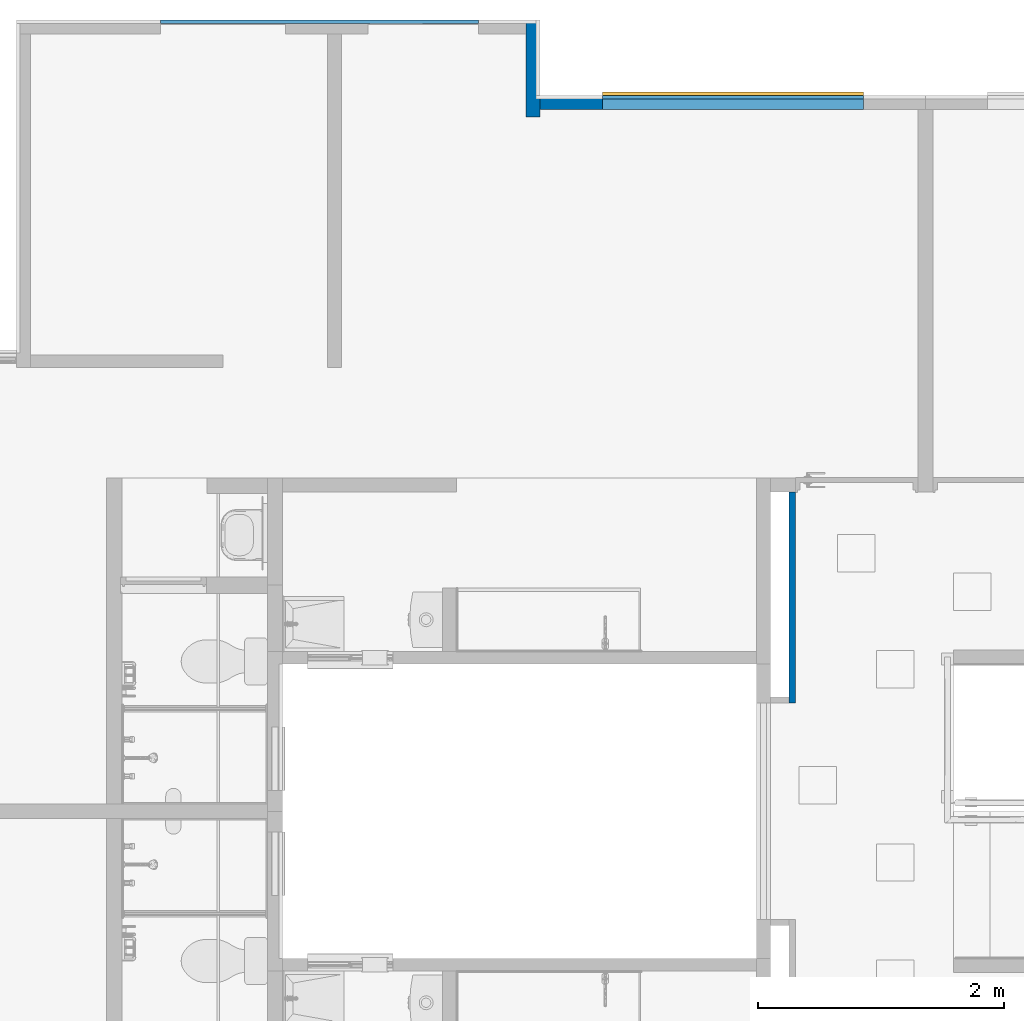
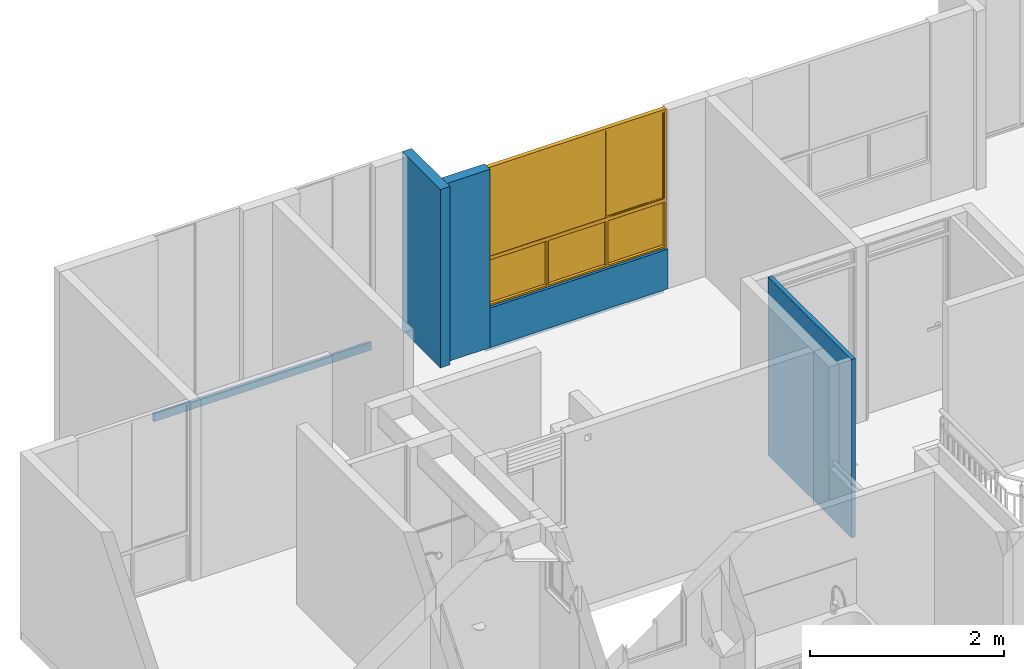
# One storey, part 19 of 47: 6 walls, 1 window, 1 opening.
"""IFC4 building model written with IfcOpenShell, lengths in metres."""

from ifc_helpers import new_model, entity, si_unit, converted_unit, derived_unit, direction, frame, origin, place, context, subcontext, project, spatial, indexed_curve, outline, extrude, polygons, source, transform, mapped, material, constituent, constituent_set, type_object, type_shapes, element, fill, save


model = new_model("IFC4")

# Units and contexts
model_context = context("Model", 3, precision=1e-05, world=origin(), true_north=direction((6.123031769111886e-17, 1.0)))
body_context = subcontext(model_context, "Body", "Model", "MODEL_VIEW")
ifc_project = project(units=[si_unit("LENGTHUNIT", "METRE"), si_unit("AREAUNIT", "SQUARE_METRE"), si_unit("VOLUMEUNIT", "CUBIC_METRE"), converted_unit("PLANEANGLEUNIT", "DEGREE", entity("IfcRatioMeasure", 0.017453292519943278), si_unit("PLANEANGLEUNIT", "RADIAN"), dimensions=[0, 0, 0, 0, 0, 0, 0]), si_unit("MASSUNIT", "GRAM", prefix="KILO"), derived_unit("MASSDENSITYUNIT", [(si_unit("MASSUNIT", "GRAM", prefix="KILO"), 1), (si_unit("LENGTHUNIT", "METRE"), -3)]), derived_unit("IONCONCENTRATIONUNIT", [(si_unit("MASSUNIT", "GRAM", prefix="KILO"), 1), (si_unit("LENGTHUNIT", "METRE"), -3)]), derived_unit("MOMENTOFINERTIAUNIT", [(si_unit("LENGTHUNIT", "METRE"), 4)]), si_unit("TIMEUNIT", "SECOND"), si_unit("FREQUENCYUNIT", "HERTZ"), si_unit("THERMODYNAMICTEMPERATUREUNIT", "DEGREE_CELSIUS"), derived_unit("THERMALTRANSMITTANCEUNIT", [(si_unit("MASSUNIT", "GRAM", prefix="KILO"), 1), (si_unit("THERMODYNAMICTEMPERATUREUNIT", "KELVIN"), -1), (si_unit("TIMEUNIT", "SECOND"), -3)]), derived_unit("THERMALCONDUCTANCEUNIT", [(si_unit("MASSUNIT", "GRAM", prefix="KILO"), 1), (si_unit("THERMODYNAMICTEMPERATUREUNIT", "KELVIN"), -1), (si_unit("TIMEUNIT", "SECOND"), -3), (si_unit("LENGTHUNIT", "METRE"), 1)]), derived_unit("VOLUMETRICFLOWRATEUNIT", [(si_unit("LENGTHUNIT", "METRE"), 3), (si_unit("TIMEUNIT", "SECOND"), -1)]), derived_unit("MASSFLOWRATEUNIT", [(si_unit("MASSUNIT", "GRAM", prefix="KILO"), 1), (si_unit("TIMEUNIT", "SECOND"), -1)]), derived_unit("ROTATIONALFREQUENCYUNIT", [(si_unit("TIMEUNIT", "SECOND"), -1)]), si_unit("ELECTRICCURRENTUNIT", "AMPERE"), si_unit("ELECTRICVOLTAGEUNIT", "VOLT"), si_unit("POWERUNIT", "WATT"), si_unit("FORCEUNIT", "NEWTON", prefix="KILO"), si_unit("ILLUMINANCEUNIT", "LUX"), si_unit("LUMINOUSFLUXUNIT", "LUMEN"), si_unit("LUMINOUSINTENSITYUNIT", "CANDELA"), derived_unit("USERDEFINED", [(si_unit("MASSUNIT", "GRAM", prefix="KILO"), -1), (si_unit("LENGTHUNIT", "METRE"), -2), (si_unit("TIMEUNIT", "SECOND"), 3), (si_unit("LUMINOUSFLUXUNIT", "LUMEN"), 1)]), derived_unit("USERDEFINED", [(si_unit("MASSUNIT", "GRAM", prefix="KILO"), 1), (si_unit("TIMEUNIT", "SECOND"), -3), (si_unit("LENGTHUNIT", "METRE"), 3), (si_unit("ELECTRICCURRENTUNIT", "AMPERE"), -2)]), derived_unit("SOUNDPOWERUNIT", [(si_unit("MASSUNIT", "GRAM", prefix="KILO"), 1), (si_unit("TIMEUNIT", "SECOND"), -3), (si_unit("LENGTHUNIT", "METRE"), 2)]), derived_unit("SOUNDPRESSUREUNIT", [(si_unit("MASSUNIT", "GRAM", prefix="KILO"), 1), (si_unit("LENGTHUNIT", "METRE"), -1), (si_unit("TIMEUNIT", "SECOND"), -2)]), derived_unit("LINEARVELOCITYUNIT", [(si_unit("LENGTHUNIT", "METRE"), 1), (si_unit("TIMEUNIT", "SECOND"), -1)]), si_unit("PRESSUREUNIT", "PASCAL"), derived_unit("USERDEFINED", [(si_unit("MASSUNIT", "GRAM", prefix="KILO"), 1), (si_unit("LENGTHUNIT", "METRE"), -2), (si_unit("TIMEUNIT", "SECOND"), -2)]), derived_unit("LINEARFORCEUNIT", [(si_unit("MASSUNIT", "GRAM", prefix="KILO"), 1), (si_unit("TIMEUNIT", "SECOND"), -2)]), derived_unit("PLANARFORCEUNIT", [(si_unit("MASSUNIT", "GRAM", prefix="KILO"), 1), (si_unit("LENGTHUNIT", "METRE"), -1), (si_unit("TIMEUNIT", "SECOND"), -2)]), derived_unit("SPECIFICHEATCAPACITYUNIT", [(si_unit("THERMODYNAMICTEMPERATUREUNIT", "KELVIN"), -1), (si_unit("LENGTHUNIT", "METRE"), 2), (si_unit("TIMEUNIT", "SECOND"), -2)]), derived_unit("HEATINGVALUEUNIT", [(si_unit("LENGTHUNIT", "METRE"), 2), (si_unit("TIMEUNIT", "SECOND"), -2)]), derived_unit("VAPORPERMEABILITYUNIT", [(si_unit("LENGTHUNIT", "METRE"), -1), (si_unit("TIMEUNIT", "SECOND"), 1)]), derived_unit("DYNAMICVISCOSITYUNIT", [(si_unit("MASSUNIT", "GRAM", prefix="KILO"), 1), (si_unit("TIMEUNIT", "SECOND"), -1), (si_unit("LENGTHUNIT", "METRE"), -1)]), derived_unit("THERMALEXPANSIONCOEFFICIENTUNIT", [(si_unit("THERMODYNAMICTEMPERATUREUNIT", "KELVIN"), -1)]), derived_unit("MODULUSOFELASTICITYUNIT", [(si_unit("MASSUNIT", "GRAM", prefix="KILO"), 1), (si_unit("LENGTHUNIT", "METRE"), -1), (si_unit("TIMEUNIT", "SECOND"), -2)]), derived_unit("ISOTHERMALMOISTURECAPACITYUNIT", [(si_unit("LENGTHUNIT", "METRE"), 3), (si_unit("MASSUNIT", "GRAM", prefix="KILO"), -1)]), derived_unit("MOISTUREDIFFUSIVITYUNIT", [(si_unit("TIMEUNIT", "SECOND"), -1), (si_unit("LENGTHUNIT", "METRE"), 2)])], contexts=[model_context])

# Site, building, storey
site_placement = place(None, origin())
site = spatial("IfcSite", under=ifc_project, at=site_placement, Name="Default", CompositionType="ELEMENT")
building_placement = place(site_placement, origin())
building = spatial("IfcBuilding", under=site, at=building_placement, CompositionType="ELEMENT")
storey_placement = place(building_placement, frame((0.0, 0.0, 11.750000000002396)))
storey = spatial("IfcBuildingStorey", under=building, at=storey_placement, Name="Nivel 6", CompositionType="ELEMENT", Elevation=11.750000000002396)

# Wall
ifc_material_1 = material(Name="Ladrillo claro (Aire)", Category="Materials")
wall_type_1 = type_object("IfcWallType", Name="Basic Wall:B2010 - 0.115m - Muro exterior en mampostería - Ladrillo", PredefinedType="STANDARD")
wall_1_placement = place(storey_placement, frame((6.124999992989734, 0.01999997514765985, 0.0), z_axis=(0.0, 0.0, 1.0), x_axis=(0.0, -1.0, 0.0)))
element("IfcWall", 1, at=wall_1_placement, inside=storey, type_object=wall_type_1, material=ifc_material_1, Name="Basic Wall:B2010 - 0.115m - Muro exterior en mampostería - Ladrillo", ObjectType="Basic Wall:B2010 - 0.115m - Muro exterior en mampostería - Ladrillo", PredefinedType="NOTDEFINED", context=body_context, shape_type="SweptSolid", body=[
    extrude(outline(indexed_curve([(0.7899180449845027, 0.05750000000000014), (1.6929241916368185e-18, 0.057499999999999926), (-1.6929241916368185e-18, -0.057499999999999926), (0.7899180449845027, -0.057499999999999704), (0.7899180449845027, 0.05750000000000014)], self_intersect=False)), origin(), (0.0, 0.0, 1.0), 2.2500000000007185),
])

# Wall, opening, window
wall_2_placement = place(storey_placement, frame((6.692499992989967, -0.6525000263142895, 0.0)))
wall_2 = element("IfcWall", 2, at=wall_2_placement, inside=storey, type_object=wall_type_1, material=ifc_material_1, Name="Basic Wall:B2010 - 0.115m - Muro exterior en mampostería - Ladrillo", ObjectType="Basic Wall:B2010 - 0.115m - Muro exterior en mampostería - Ladrillo", PredefinedType="NOTDEFINED", context=body_context, shape_type="Tessellation", body=[
    polygons([(4.788365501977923e-16, -0.05750000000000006, -2.1657342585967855e-15), (2.1249999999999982, -0.05750000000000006, -2.1657342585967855e-15), (2.1249999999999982, -0.05750000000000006, 0.5000000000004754), (4.788365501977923e-16, -0.05750000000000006, 0.5000000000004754), (2.1249999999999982, 0.05749999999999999, -2.1657342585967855e-15), (5.461691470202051e-16, 0.05749999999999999, -2.1657342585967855e-15), (5.461691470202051e-16, 0.05749999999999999, 0.5000000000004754), (2.1249999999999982, 0.05749999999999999, 0.5000000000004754)], [[[1, 2, 3, 4]], [[5, 6, 7, 8]], [[2, 1, 6, 5]], [[2, 5, 8, 3]], [[6, 1, 4, 7]], [[4, 3, 8, 7]]], closed=True),
])
opening_placement = place(wall_2_placement, frame((0.0, -0.0575000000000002, 0.5000000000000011)))
opening = element("IfcOpeningElement", 3, at=opening_placement, cuts=wall_2, Name="B2020 - 6c Ventana corrediza - Aluminio + Vidrio:B2020 -2.13m x 1.750m - Ventana corrediza 2C - Aluminio + Vidrio:1", PredefinedType="OPENING", context=body_context, shape_type="SweptSolid", body=[
    extrude(outline(indexed_curve([(0.0, 2.125), (0.0, 0.0), (1.7500000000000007, 0.0), (1.7499999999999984, 2.125), (0.0, 2.125)], self_intersect=False)), frame((0.0, 0.0, 0.0), z_axis=(0.0, 1.0, 0.0), x_axis=(0.0, 0.0, 1.0)), (0.0, 0.0, 1.0), 0.115),
])
ifc_material_2 = material(Name="Aluminio", Category="Materials")
ifc_constituent_1 = constituent(ifc_material_2, Name="Aluminio", Category="Materials")
ifc_material_3 = material(Name="Vidrio", Category="Materials")
ifc_constituent_2 = constituent(ifc_material_3, Name="Vidrio", Category="Materials")
ifc_material_4 = material(Name="Alfajía en aluminio", Category="Materials")
ifc_constituent_3 = constituent(ifc_material_4, Name="Alfajía en aluminio", Category="Materials")
ifc_constituent_set_1 = constituent_set(constituents=[ifc_constituent_1, ifc_constituent_2, ifc_constituent_3])
ifc_constituent_4 = constituent(ifc_material_2, Name="Aluminio", Category="Materials")
ifc_constituent_5 = constituent(ifc_material_3, Name="Vidrio", Category="Materials")
ifc_constituent_6 = constituent(ifc_material_4, Name="Alfajía en aluminio", Category="Materials")
ifc_constituent_set_2 = constituent_set(constituents=[ifc_constituent_4, ifc_constituent_5, ifc_constituent_6])
window_type = type_object("IfcWindowType", Name="B2020 - 6c Ventana corrediza - Aluminio + Vidrio:B2020 -2.13m x 1.750m - Ventana corrediza 2C - Aluminio + Vidrio", PartitioningType="NOTDEFINED", PredefinedType="WINDOW", material=ifc_constituent_set_2)
shared_shape = source(origin(), body_context, "Body", "Tessellation", [
    polygons([(1.3916666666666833, 0.03749999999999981, 1.7249999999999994), (1.3916666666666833, 0.03749999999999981, 0.6249999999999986), (1.391666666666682, 0.032499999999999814, 0.6249999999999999), (1.3916666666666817, 0.032499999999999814, 1.7249999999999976), (-0.6833333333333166, 0.03249999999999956, 0.6249999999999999), (-0.6833333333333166, 0.032499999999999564, 1.7249999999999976), (-0.7083333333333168, 0.03249999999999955, 0.5999999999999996), (1.4166666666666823, 0.032499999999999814, 0.5999999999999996), (1.4166666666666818, 0.032499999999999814, 1.749999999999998), (-0.7083333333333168, 0.03249999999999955, 1.749999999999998), (-0.6833333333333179, 0.03749999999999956, 0.6249999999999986), (-0.6833333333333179, 0.03749999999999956, 1.7249999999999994), (-0.6883333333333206, 0.03749999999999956, 0.6199999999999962), (-0.6883333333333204, 0.03749999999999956, 1.7300000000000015), (1.3966666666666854, 0.03749999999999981, 1.7300000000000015), (1.3966666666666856, 0.03749999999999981, 0.6199999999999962), (1.3966666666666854, 0.05499999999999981, 1.7300000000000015), (1.3966666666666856, 0.05499999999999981, 0.6199999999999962), (-0.6883333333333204, 0.05499999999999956, 0.6199999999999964), (-0.6883333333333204, 0.05499999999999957, 1.7300000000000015), (-0.6833333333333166, 0.05499999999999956, 0.6249999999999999), (-0.6833333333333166, 0.05499999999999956, 1.7249999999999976), (1.3916666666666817, 0.05499999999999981, 1.7249999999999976), (1.391666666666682, 0.05499999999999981, 0.6249999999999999), (1.3916666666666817, 0.05999999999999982, 1.7249999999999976), (1.391666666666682, 0.05999999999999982, 0.6249999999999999), (-0.6833333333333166, 0.059999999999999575, 0.6249999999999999), (-0.6833333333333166, 0.059999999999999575, 1.7249999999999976), (-0.7033333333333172, 0.05999999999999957, 0.6049999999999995), (-0.7033333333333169, 0.05999999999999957, 1.744999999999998), (1.411666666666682, 0.05999999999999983, 1.744999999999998), (1.4116666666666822, 0.05999999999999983, 0.6049999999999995), (1.411666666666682, 0.07749999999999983, 1.744999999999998), (1.4116666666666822, 0.07749999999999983, 0.6049999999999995), (-0.7033333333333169, 0.07749999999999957, 0.6049999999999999), (-0.7033333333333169, 0.07749999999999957, 1.744999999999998), (-0.6833333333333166, 0.07749999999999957, 0.6249999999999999), (-0.6833333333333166, 0.07749999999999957, 1.7249999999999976), (1.3916666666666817, 0.07749999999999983, 1.7249999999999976), (1.391666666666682, 0.07749999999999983, 0.6249999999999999), (1.3916666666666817, 0.08249999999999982, 1.7249999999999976), (1.391666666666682, 0.08249999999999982, 0.6249999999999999), (-0.6833333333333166, 0.08249999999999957, 0.6249999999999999), (-0.6833333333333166, 0.08249999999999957, 1.7249999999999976), (-0.7083333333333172, 0.08249999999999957, 0.5999999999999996), (-0.7083333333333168, 0.08249999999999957, 1.749999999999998), (1.4166666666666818, 0.08249999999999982, 1.749999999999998), (1.4166666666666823, 0.08249999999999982, 0.5999999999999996)], [[[1, 2, 3, 4]], [[7, 8, 9, 10], [5, 6, 4, 3]], [[2, 11, 5, 3]], [[13, 14, 15, 16], [11, 2, 1, 12]], [[17, 18, 16, 15]], [[18, 19, 13, 16]], [[19, 18, 17, 20], [21, 22, 23, 24]], [[25, 26, 24, 23]], [[26, 27, 21, 24]], [[29, 30, 31, 32], [27, 26, 25, 28]], [[33, 34, 32, 31]], [[34, 35, 29, 32]], [[35, 34, 33, 36], [37, 38, 39, 40]], [[41, 42, 40, 39]], [[42, 43, 37, 40]], [[45, 46, 47, 48], [43, 42, 41, 44]], [[9, 8, 48, 47]], [[8, 7, 45, 48]], [[11, 12, 6, 5]], [[19, 20, 14, 13]], [[27, 28, 22, 21]], [[35, 36, 30, 29]], [[43, 44, 38, 37]], [[7, 10, 46, 45]], [[12, 1, 4, 6]], [[20, 17, 15, 14]], [[28, 25, 23, 22]], [[36, 33, 31, 30]], [[44, 41, 39, 38]], [[10, 9, 47, 46]]], closed=True),
    polygons([(-0.009999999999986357, 0.08249999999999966, 0.6249999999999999), (0.010000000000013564, 0.08249999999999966, 0.6249999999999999), (0.010000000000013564, 0.05999999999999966, 0.6249999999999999), (-0.009999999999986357, 0.05999999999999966, 0.6249999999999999), (-0.009999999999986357, 0.08249999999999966, 1.7249999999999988), (-0.009999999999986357, 0.05999999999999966, 1.7249999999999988), (0.010000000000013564, 0.05999999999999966, 1.7249999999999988), (0.010000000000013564, 0.08249999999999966, 1.7249999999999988)], [[[1, 2, 3, 4]], [[5, 1, 4, 6]], [[6, 4, 3, 7]], [[7, 3, 2, 8]], [[8, 2, 1, 5]], [[5, 6, 7, 8]]], closed=True),
    polygons([(0.7108333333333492, 0.06674999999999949, 1.7299999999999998), (-0.6833333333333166, 0.06674999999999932, 1.7299999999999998), (-0.6833333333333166, 0.06674999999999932, 0.6174999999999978), (0.7108333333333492, 0.06674999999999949, 0.6174999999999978), (0.7108333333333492, 0.0707499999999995, 0.6174999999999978), (0.7108333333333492, 0.0707499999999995, 1.7299999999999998), (-0.6833333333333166, 0.07074999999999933, 0.6174999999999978), (-0.6833333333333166, 0.07074999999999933, 1.7299999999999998)], [[[1, 2, 3, 4]], [[4, 5, 6, 1]], [[3, 7, 5, 4]], [[2, 8, 7, 3]], [[6, 5, 7, 8]], [[1, 6, 8, 2]]], closed=True),
    polygons([(0.7108333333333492, 0.07074999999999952, 0.6225000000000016), (-0.6783333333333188, 0.07074999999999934, 0.6225000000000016), (-0.6783333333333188, 0.06674999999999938, 0.6225000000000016), (0.7108333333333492, 0.06674999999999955, 0.6225000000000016), (-0.6783333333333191, 0.07074999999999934, 1.730000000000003), (-0.6783333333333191, 0.06674999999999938, 1.730000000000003), (0.7108333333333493, 0.06674999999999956, 1.730000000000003), (-0.6633333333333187, 0.06674999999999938, 1.7150000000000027), (-0.6633333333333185, 0.06674999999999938, 0.637500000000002), (0.695833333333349, 0.06674999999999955, 0.637500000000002), (0.695833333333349, 0.06674999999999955, 1.7150000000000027), (0.7108333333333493, 0.07074999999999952, 1.730000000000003), (-0.6633333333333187, 0.07074999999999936, 0.637500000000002), (-0.6633333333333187, 0.07074999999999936, 1.7150000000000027), (0.695833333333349, 0.07074999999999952, 1.7150000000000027), (0.695833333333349, 0.07074999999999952, 0.6375000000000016), (0.695833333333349, 0.07549999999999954, 0.637500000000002), (-0.6633333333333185, 0.07549999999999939, 0.6375000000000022), (-0.6633333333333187, 0.07549999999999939, 1.7150000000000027), (0.695833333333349, 0.07549999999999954, 1.7150000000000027), (-0.6833333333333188, 0.07549999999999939, 0.6175000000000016), (-0.683333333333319, 0.07549999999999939, 1.735000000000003), (0.7158333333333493, 0.07549999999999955, 1.735000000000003), (0.7158333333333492, 0.07549999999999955, 0.6175000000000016), (0.7158333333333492, 0.06199999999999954, 0.6175000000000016), (-0.6833333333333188, 0.061999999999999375, 0.6175000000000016), (-0.683333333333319, 0.061999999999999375, 1.735000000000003), (0.7158333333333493, 0.06199999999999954, 1.735000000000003), (-0.6633333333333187, 0.06199999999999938, 0.637500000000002), (-0.6633333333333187, 0.06199999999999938, 1.7150000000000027), (0.695833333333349, 0.06199999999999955, 1.7150000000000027), (0.695833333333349, 0.06199999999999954, 0.6375000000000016)], [[[1, 2, 3, 4]], [[2, 5, 6, 3]], [[3, 6, 7, 4], [8, 9, 10, 11]], [[5, 2, 1, 12], [13, 14, 15, 16]], [[17, 18, 13, 16]], [[18, 19, 14, 13]], [[21, 22, 23, 24], [19, 18, 17, 20]], [[25, 26, 21, 24]], [[26, 27, 22, 21]], [[27, 26, 25, 28], [29, 30, 31, 32]], [[10, 9, 29, 32]], [[9, 8, 30, 29]], [[12, 1, 4, 7]], [[20, 17, 16, 15]], [[28, 25, 24, 23]], [[11, 10, 32, 31]], [[5, 12, 7, 6]], [[19, 20, 15, 14]], [[27, 28, 23, 22]], [[8, 11, 31, 30]]], closed=True),
    polygons([(1.3916666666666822, 0.04424999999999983, 1.7299999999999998), (0.7033333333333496, 0.04424999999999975, 1.7299999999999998), (0.7033333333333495, 0.04424999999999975, 0.6174999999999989), (1.391666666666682, 0.04424999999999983, 0.6174999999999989), (1.391666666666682, 0.04824999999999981, 0.6174999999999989), (1.3916666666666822, 0.04824999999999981, 1.7299999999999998), (0.7033333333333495, 0.048249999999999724, 0.6174999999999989), (0.7033333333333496, 0.048249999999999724, 1.7299999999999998)], [[[1, 2, 3, 4]], [[4, 5, 6, 1]], [[3, 7, 5, 4]], [[2, 8, 7, 3]], [[6, 5, 7, 8]], [[1, 6, 8, 2]]], closed=True),
    polygons([(1.391666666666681, 0.04824999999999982, 0.6224999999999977), (0.7033333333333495, 0.04824999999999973, 0.6224999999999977), (0.7033333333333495, 0.044249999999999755, 0.6224999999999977), (1.391666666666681, 0.04424999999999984, 0.6224999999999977), (0.7033333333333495, 0.04824999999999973, 1.729999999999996), (0.7033333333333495, 0.044249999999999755, 1.729999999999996), (1.391666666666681, 0.04424999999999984, 1.729999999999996), (0.7183333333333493, 0.044249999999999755, 1.714999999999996), (0.7183333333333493, 0.044249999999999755, 0.6374999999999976), (1.3766666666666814, 0.04424999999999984, 0.6374999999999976), (1.3766666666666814, 0.04424999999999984, 1.714999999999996), (1.391666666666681, 0.04824999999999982, 1.729999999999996), (0.7183333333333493, 0.04824999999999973, 0.6374999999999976), (0.7183333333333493, 0.04824999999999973, 1.714999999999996), (1.3766666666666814, 0.04824999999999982, 1.714999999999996), (1.3766666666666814, 0.04824999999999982, 0.6374999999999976), (1.3766666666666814, 0.052999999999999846, 0.6374999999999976), (0.7183333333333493, 0.05299999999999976, 0.6374999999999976), (0.7183333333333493, 0.05299999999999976, 1.714999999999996), (1.3766666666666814, 0.052999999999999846, 1.714999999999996), (0.6983333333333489, 0.052999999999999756, 0.6174999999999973), (0.6983333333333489, 0.05299999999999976, 1.7349999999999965), (1.3966666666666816, 0.052999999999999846, 1.7349999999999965), (1.3966666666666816, 0.052999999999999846, 0.6174999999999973), (1.3966666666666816, 0.03949999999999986, 0.6174999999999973), (0.6983333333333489, 0.03949999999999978, 0.6174999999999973), (0.6983333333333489, 0.03949999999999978, 1.7349999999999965), (1.3966666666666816, 0.03949999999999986, 1.7349999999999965), (0.7183333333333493, 0.039499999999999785, 0.6374999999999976), (0.7183333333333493, 0.03949999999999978, 1.714999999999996), (1.3766666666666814, 0.039499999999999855, 1.714999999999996), (1.3766666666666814, 0.039499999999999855, 0.6374999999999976)], [[[1, 2, 3, 4]], [[2, 5, 6, 3]], [[3, 6, 7, 4], [8, 9, 10, 11]], [[5, 2, 1, 12], [13, 14, 15, 16]], [[17, 18, 13, 16]], [[18, 19, 14, 13]], [[21, 22, 23, 24], [19, 18, 17, 20]], [[25, 26, 21, 24]], [[26, 27, 22, 21]], [[27, 26, 25, 28], [29, 30, 31, 32]], [[10, 9, 29, 32]], [[9, 8, 30, 29]], [[12, 1, 4, 7]], [[20, 17, 16, 15]], [[28, 25, 24, 23]], [[11, 10, 32, 31]], [[5, 12, 7, 6]], [[19, 20, 15, 14]], [[27, 28, 23, 22]], [[8, 11, 31, 30]]], closed=True),
    polygons([(-0.6883333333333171, 0.04424999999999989, 1.7299999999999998), (-0.6883333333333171, 0.04424999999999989, 0.6174999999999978), (1.3916666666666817, 0.04424999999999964, 0.6174999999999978), (1.3916666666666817, 0.04424999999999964, 1.7299999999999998), (1.3916666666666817, 0.04824999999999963, 0.6174999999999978), (1.3916666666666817, 0.04824999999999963, 1.7299999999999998), (-0.6883333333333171, 0.04824999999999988, 0.6174999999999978), (-0.6883333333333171, 0.04824999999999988, 1.7299999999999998)], [[[1, 2, 3, 4]], [[3, 5, 6, 4]], [[2, 7, 5, 3]], [[1, 8, 7, 2]], [[8, 6, 5, 7]], [[4, 6, 8, 1]]], closed=True),
    polygons([(1.3966666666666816, 0.06674999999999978, 1.7299999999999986), (-0.6883333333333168, 0.06674999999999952, 1.7299999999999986), (-0.6883333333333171, 0.06674999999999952, 0.6174999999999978), (1.3966666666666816, 0.06674999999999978, 0.6174999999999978), (1.3966666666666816, 0.07074999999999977, 0.6174999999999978), (1.3966666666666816, 0.07074999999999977, 1.7299999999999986), (-0.6883333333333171, 0.07074999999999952, 0.6174999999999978), (-0.6883333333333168, 0.07074999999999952, 1.7299999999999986)], [[[1, 2, 3, 4]], [[4, 5, 6, 1]], [[3, 7, 5, 4]], [[2, 8, 7, 3]], [[6, 5, 7, 8]], [[1, 6, 8, 2]]], closed=True),
    polygons([(1.3966666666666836, 0.06813901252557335, 0.5800000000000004), (-0.6883333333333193, 0.06813901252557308, 0.5800000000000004), (-0.6883333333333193, 0.06813901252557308, 0.019999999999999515), (1.3966666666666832, 0.06813901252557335, 0.019999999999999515), (1.3966666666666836, 0.07213901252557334, 0.5800000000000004), (1.3966666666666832, 0.07213901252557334, 0.019999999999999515), (-0.6883333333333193, 0.07213901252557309, 0.019999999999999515), (-0.6883333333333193, 0.07213901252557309, 0.5800000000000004)], [[[1, 2, 3, 4]], [[5, 6, 7, 8]], [[4, 6, 5, 1]], [[3, 7, 6, 4]], [[2, 8, 7, 3]], [[1, 5, 8, 2]]], closed=True),
    polygons([(-0.009999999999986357, 0.08250000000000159, 0.5799999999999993), (-0.009999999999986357, 0.03250000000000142, 0.5799999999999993), (0.010000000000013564, 0.03250000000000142, 0.5799999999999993), (0.010000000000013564, 0.08250000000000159, 0.5799999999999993), (-0.009999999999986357, 0.08250000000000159, 0.019999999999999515), (0.010000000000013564, 0.08250000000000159, 0.019999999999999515), (0.010000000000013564, 0.03250000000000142, 0.019999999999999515), (-0.009999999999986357, 0.03250000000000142, 0.019999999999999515)], [[[1, 2, 3, 4]], [[5, 6, 7, 8]], [[4, 6, 5, 1]], [[3, 7, 6, 4]], [[2, 8, 7, 3]], [[1, 5, 8, 2]]], closed=True),
    polygons([(1.4166666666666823, 0.08249999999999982, 2.707167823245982e-16), (-0.7083333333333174, 0.08249999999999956, 4.060751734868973e-16), (-0.7083333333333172, 0.08249999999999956, 0.5999999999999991), (1.4166666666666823, 0.08249999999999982, 0.5999999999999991), (0.6983333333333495, 0.08250000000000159, 0.5799999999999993), (-0.6883333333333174, 0.0825000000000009, 0.5799999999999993), (-0.6883333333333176, 0.0825000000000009, 0.020000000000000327), (0.6983333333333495, 0.08250000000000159, 0.01999999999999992), (0.7183333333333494, 0.08250000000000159, 0.01999999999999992), (1.3966666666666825, 0.08250000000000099, 0.020000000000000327), (1.3966666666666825, 0.08250000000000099, 0.5799999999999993), (0.7183333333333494, 0.08250000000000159, 0.5799999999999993), (0.7183333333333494, 0.03250000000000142, 0.5799999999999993), (0.7183333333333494, 0.03250000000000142, 0.01999999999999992), (1.4166666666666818, 0.03250000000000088, 0.5999999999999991), (-0.7083333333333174, 0.0325000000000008, 0.5999999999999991), (-0.7083333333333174, 0.0325000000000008, 4.060751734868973e-16), (1.4166666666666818, 0.03250000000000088, 4.060751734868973e-16), (1.3966666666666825, 0.032499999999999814, 0.5799999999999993), (1.3966666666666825, 0.032499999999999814, 0.020000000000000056), (0.6983333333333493, 0.03250000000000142, 0.01999999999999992), (-0.6883333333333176, 0.03249999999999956, 0.020000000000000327), (-0.6883333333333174, 0.03249999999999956, 0.5799999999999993), (0.6983333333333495, 0.03250000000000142, 0.5799999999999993)], [[[1, 2, 3, 4], [5, 6, 7, 8], [9, 10, 11, 12]], [[12, 13, 14, 9]], [[15, 16, 17, 18], [13, 19, 20, 14], [21, 22, 23, 24]], [[8, 21, 24, 5]], [[11, 10, 20, 19]], [[15, 18, 1, 4]], [[10, 9, 14, 20]], [[18, 17, 2, 1]], [[7, 6, 23, 22]], [[17, 16, 3, 2]], [[6, 5, 24, 23]], [[4, 3, 16, 15]], [[19, 13, 12, 11]], [[22, 21, 8, 7]]], closed=True),
    polygons([(0.6983333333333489, 0.07213901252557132, 0.5849999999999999), (-0.6883333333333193, 0.07213901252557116, 0.5849999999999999), (-0.6883333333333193, 0.06813901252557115, 0.5849999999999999), (0.6983333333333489, 0.06813901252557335, 0.5849999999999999), (0.6983333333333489, 0.07213901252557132, 0.019999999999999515), (0.6983333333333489, 0.06813901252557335, 0.019999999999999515), (-0.6883333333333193, 0.06813901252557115, 0.019999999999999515), (-0.6883333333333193, 0.07213901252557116, 0.019999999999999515)], [[[1, 2, 3, 4]], [[5, 6, 7, 8]], [[1, 5, 8, 2]], [[2, 8, 7, 3]], [[3, 7, 6, 4]], [[4, 6, 5, 1]]], closed=True),
    polygons([(1.4166666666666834, 0.11499999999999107, -4.060751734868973e-16), (1.416666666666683, 0.1409807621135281, -0.015000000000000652), (1.416666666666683, 0.14348076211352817, -0.010669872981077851), (1.4166666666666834, 0.11633974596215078, 0.0049999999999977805), (1.4166666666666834, 0.08249999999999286, 0.0049999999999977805), (1.4166666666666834, 0.08249999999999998, -4.060751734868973e-16), (-0.7083333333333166, 0.11499999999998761, -4.060751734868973e-16), (-0.7083333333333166, 0.08249999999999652, -4.060751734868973e-16), (-0.7083333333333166, 0.0824999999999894, 0.0049999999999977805), (-0.7083333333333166, 0.11633974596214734, 0.0049999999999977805), (-0.7083333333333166, 0.1434807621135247, -0.010669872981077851), (-0.7083333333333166, 0.14098076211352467, -0.015000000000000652)], [[[1, 2, 3, 4, 5, 6]], [[7, 8, 9, 10, 11, 12]], [[6, 8, 7, 1]], [[5, 9, 8, 6]], [[4, 10, 9, 5]], [[3, 11, 10, 4]], [[2, 12, 11, 3]], [[1, 7, 12, 2]]], closed=True),
    polygons([(0.7183333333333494, 0.07213901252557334, 0.5849999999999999), (0.7183333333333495, 0.06813901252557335, 0.5849999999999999), (1.3966666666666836, 0.06813901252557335, 0.5849999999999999), (1.3966666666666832, 0.07213901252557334, 0.5849999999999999), (0.7183333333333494, 0.07213901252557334, 0.019999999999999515), (1.3966666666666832, 0.07213901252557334, 0.019999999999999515), (1.3966666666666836, 0.06813901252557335, 0.019999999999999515), (0.7183333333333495, 0.06813901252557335, 0.019999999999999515)], [[[1, 2, 3, 4]], [[5, 6, 7, 8]], [[4, 6, 5, 1]], [[3, 7, 6, 4]], [[2, 8, 7, 3]], [[1, 5, 8, 2]]], closed=True),
])
type_shapes(window_type, [shared_shape])
window_placement = place(opening_placement, frame((0.7083333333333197, 0.0, 0.0)))
window = element("IfcWindow", 4, at=window_placement, inside=storey, type_object=window_type, material=ifc_constituent_set_1, Name="B2020 - 6c Ventana corrediza - Aluminio + Vidrio:B2020 -2.13m x 1.750m - Ventana corrediza 2C - Aluminio + Vidrio", ObjectType="B2020 - 6c Ventana corrediza - Aluminio + Vidrio:B2020 -2.13m x 1.750m - Ventana corrediza 2C - Aluminio + Vidrio", OverallHeight=1.7500000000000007, OverallWidth=2.125, PartitioningType="NOTDEFINED", PredefinedType="WINDOW", context=body_context, shape_type="MappedRepresentation", body=[
    mapped(shared_shape, transform((0.0, 0.0, 0.0), scale=1.0)),
])
fill(opening, window)

# Walls
ifc_material_5 = material(Name="LADRILLO CLARO", Category="Materials")
wall_type_2 = type_object("IfcWallType", Name="Basic Wall:B2010 - 0.115m - ME mampostería no estructural - Ladrillo", PredefinedType="STANDARD")
wall_3_placement = place(storey_placement, frame((6.1824999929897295, -0.652500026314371, 0.0)))
element("IfcWall", 5, at=wall_3_placement, inside=storey, type_object=wall_type_2, material=ifc_material_5, Name="Basic Wall:B2010 - 0.115m - ME mampostería no estructural - Ladrillo", ObjectType="Basic Wall:B2010 - 0.115m - ME mampostería no estructural - Ladrillo", PredefinedType="NOTDEFINED", context=body_context, shape_type="SweptSolid", body=[
    extrude(outline(indexed_curve([(0.5100000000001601, 0.0574999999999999), (-1.646998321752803e-16, 0.057499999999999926), (1.6469983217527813e-16, -0.05750000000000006), (0.5100000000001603, -0.057500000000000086), (0.5100000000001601, 0.0574999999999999)], self_intersect=False)), origin(), (0.0, 0.0, 1.0), 2.2500000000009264),
])
ifc_material_6 = material(Name="0 muro divisorio", Category="Materials")
wall_type_3 = type_object("IfcWallType", Name="Basic Wall:B2010 - 0.05m - MI No estructural- Concreto", PredefinedType="STANDARD")
wall_4_placement = place(storey_placement, frame((8.237500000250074, -5.545000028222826, 0.0), z_axis=(0.0, 0.0, 1.0), x_axis=(0.0, 1.0, 0.0)))
element("IfcWall", 6, at=wall_4_placement, inside=storey, type_object=wall_type_3, material=ifc_material_6, Name="Basic Wall:B2010 - 0.05m - MI No estructural- Concreto", ObjectType="Basic Wall:B2010 - 0.05m - MI No estructural- Concreto", PredefinedType="NOTDEFINED", context=body_context, shape_type="SweptSolid", body=[
    extrude(outline(indexed_curve([(1.7199999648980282, 0.0249999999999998), (-1.2688523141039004e-16, 0.02499999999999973), (1.2688523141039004e-16, -0.02499999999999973), (1.7199999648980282, -0.024999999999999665), (1.7199999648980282, 0.0249999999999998)], self_intersect=False)), origin(), (0.0, 0.0, 1.0), 2.2499999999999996),
])
wall_type_4 = type_object("IfcWallType", Name="Basic Wall:B2010 - 0.03m - ME enchape  no estructural - Ladrillo", PredefinedType="STANDARD")
wall_5_placement = place(storey_placement, frame((5.68249999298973, 0.004999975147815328, -0.10000000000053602), z_axis=(0.0, 0.0, 1.0), x_axis=(-1.0, 0.0, 0.0)))
element("IfcWall", 7, at=wall_5_placement, inside=storey, type_object=wall_type_4, material=ifc_material_5, Name="Basic Wall:B2010 - 0.03m - ME enchape  no estructural - Ladrillo", ObjectType="Basic Wall:B2010 - 0.03m - ME enchape  no estructural - Ladrillo", PredefinedType="NOTDEFINED", context=body_context, shape_type="SweptSolid", body=[
    extrude(outline(indexed_curve([(2.5899999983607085, 0.015), (-1.4243869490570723e-16, 0.015), (1.424386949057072e-16, -0.014999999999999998), (2.5899999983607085, -0.015), (2.5899999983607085, 0.015)], self_intersect=False)), origin(), (0.0, 0.0, 1.0), 0.09999999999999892),
])
wall_6_placement = place(storey_placement, frame((8.817500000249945, -0.6100000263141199, -0.10000000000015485), z_axis=(0.0, 0.0, 1.0), x_axis=(-1.0, 0.0, 0.0)))
element("IfcWall", 8, at=wall_6_placement, inside=storey, type_object=wall_type_4, material=ifc_material_5, Name="Basic Wall:B2010 - 0.03m - ME enchape  no estructural - Ladrillo", ObjectType="Basic Wall:B2010 - 0.03m - ME enchape  no estructural - Ladrillo", PredefinedType="NOTDEFINED", context=body_context, shape_type="SweptSolid", body=[
    extrude(outline(indexed_curve([(2.125000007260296, 0.014999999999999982), (-5.3566291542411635e-17, 0.014999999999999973), (5.356629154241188e-17, -0.015000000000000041), (2.125000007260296, -0.015000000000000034), (2.125000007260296, 0.014999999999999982)], self_intersect=False)), origin(), (0.0, 0.0, 1.0), 0.09999999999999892),
])

save(model, "model.ifc")
